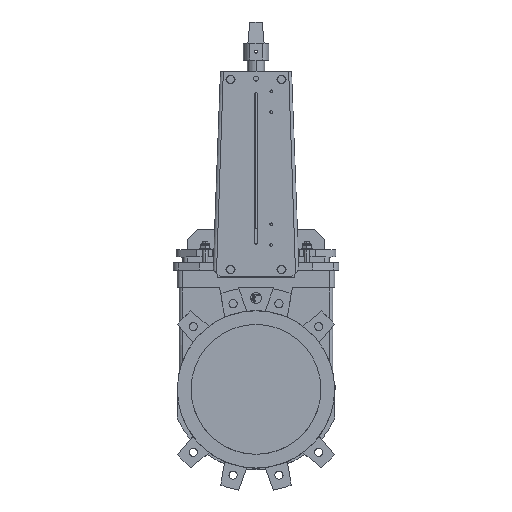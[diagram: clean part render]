
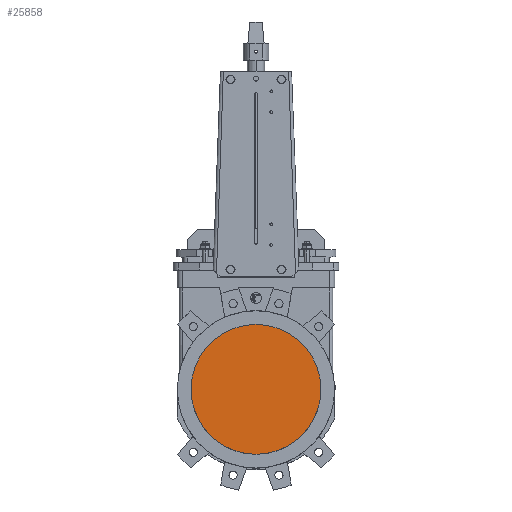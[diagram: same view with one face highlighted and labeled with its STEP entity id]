
A CAD part, top view. The second image highlights one B-rep face of the part: STEP entity #25858.
In plain terms, the highlighted planar face has unit normal (0, 0, 1).
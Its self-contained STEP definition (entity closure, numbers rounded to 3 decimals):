
#236 = VERTEX_POINT ( 'NONE', #3273 ) ;
#348 = EDGE_CURVE ( 'NONE', #22608, #236, #3452, .T. ) ;
#388 = EDGE_CURVE ( 'NONE', #236, #22712, #3462, .T. ) ;
#1056 = EDGE_CURVE ( 'NONE', #21443, #1058, #4675, .T. ) ;
#1058 = VERTEX_POINT ( 'NONE', #4671 ) ;
#3204 = VECTOR ( 'NONE', #26828, 1000. ) ;
#3273 = CARTESIAN_POINT ( 'NONE',  ( 99.034, -90.548, 5. ) ) ;
#3449 = DIRECTION ( 'NONE',  ( 0.707, 0.707, 0. ) ) ;
#3450 = VECTOR ( 'NONE', #3449, 1000. ) ;
#3451 = CARTESIAN_POINT ( 'NONE',  ( 101.291, -88.291, 5. ) ) ;
#3452 = LINE ( 'NONE', #3451, #3450 ) ;
#3461 = CARTESIAN_POINT ( 'NONE',  ( -2.257, 10.743, 5. ) ) ;
#3462 = LINE ( 'NONE', #3461, #3204 ) ;
#4671 = CARTESIAN_POINT ( 'NONE',  ( -99.034, -90.548, 5. ) ) ;
#4672 = DIRECTION ( 'NONE',  ( 0.707, 0.707, 0. ) ) ;
#4673 = VECTOR ( 'NONE', #4672, 1000. ) ;
#4674 = CARTESIAN_POINT ( 'NONE',  ( 2.257, 10.743, 5. ) ) ;
#4675 = LINE ( 'NONE', #4674, #4673 ) ;
#8452 = VERTEX_POINT ( 'NONE', #11534 ) ;
#8453 = EDGE_CURVE ( 'NONE', #8454, #8452, #11064, .T. ) ;
#8454 = VERTEX_POINT ( 'NONE', #11059 ) ;
#11059 = CARTESIAN_POINT ( 'NONE',  ( 135., 52.915, 5. ) ) ;
#11060 = DIRECTION ( 'NONE',  ( 1., 0., 0. ) ) ;
#11061 = DIRECTION ( 'NONE',  ( 0., 0., 1. ) ) ;
#11063 = AXIS2_PLACEMENT_3D ( 'NONE', #11065, #11061, #11060 ) ;
#11064 = CIRCLE ( 'NONE', #11063, 145. ) ;
#11065 = CARTESIAN_POINT ( 'NONE',  ( 0., 0., 5. ) ) ;
#11534 = CARTESIAN_POINT ( 'NONE',  ( -135., 52.915, 5. ) ) ;
#13737 = CARTESIAN_POINT ( 'NONE',  ( 0., 13., 5. ) ) ;
#14039 = AXIS2_PLACEMENT_3D ( 'NONE', #13737, #14336, #14611 ) ;
#14040 = CIRCLE ( 'NONE', #14039, 143.5 ) ;
#14336 = DIRECTION ( 'NONE',  ( 0., 0., 1. ) ) ;
#14542 = CARTESIAN_POINT ( 'NONE',  ( -95.269, -94.313, 5. ) ) ;
#14561 = CARTESIAN_POINT ( 'NONE',  ( -99.187, -90.702, 5. ) ) ;
#14576 = DIRECTION ( 'NONE',  ( 1., 0., 0. ) ) ;
#14577 = DIRECTION ( 'NONE',  ( 0., 0., 1. ) ) ;
#14578 = CARTESIAN_POINT ( 'NONE',  ( 0., 13., 5. ) ) ;
#14579 = AXIS2_PLACEMENT_3D ( 'NONE', #14578, #14577, #14576 ) ;
#14585 = CIRCLE ( 'NONE', #14579, 143.5 ) ;
#14611 = DIRECTION ( 'NONE',  ( 1., 0., 0. ) ) ;
#14656 = CARTESIAN_POINT ( 'NONE',  ( 95.269, -94.313, 5. ) ) ;
#14847 = CARTESIAN_POINT ( 'NONE',  ( 99.187, -90.702, 5. ) ) ;
#15385 = DIRECTION ( 'NONE',  ( 1., 0., 0. ) ) ;
#15386 = DIRECTION ( 'NONE',  ( 0., 0., 1. ) ) ;
#15387 = CARTESIAN_POINT ( 'NONE',  ( 0., 13., 5. ) ) ;
#15388 = AXIS2_PLACEMENT_3D ( 'NONE', #15387, #15386, #15385 ) ;
#15389 = CIRCLE ( 'NONE', #15388, 143.5 ) ;
#18606 = AXIS2_PLACEMENT_3D ( 'NONE', #19373, #19368, #19367 ) ;
#18607 = PLANE ( 'NONE',  #18606 ) ;
#18738 = CARTESIAN_POINT ( 'NONE',  ( 135., -35.654, 5. ) ) ;
#18754 = CARTESIAN_POINT ( 'NONE',  ( -135., -35.654, 5. ) ) ;
#19367 = DIRECTION ( 'NONE',  ( 1., 0., 0. ) ) ;
#19368 = DIRECTION ( 'NONE',  ( 0., 0., 1. ) ) ;
#19373 = CARTESIAN_POINT ( 'NONE',  ( -135., -198.116, 5. ) ) ;
#20381 = FACE_OUTER_BOUND ( 'NONE', #25859, .T. ) ;
#20402 = DIRECTION ( 'NONE',  ( 0., 1., 0. ) ) ;
#20403 = VECTOR ( 'NONE', #20402, 1000. ) ;
#20404 = CARTESIAN_POINT ( 'NONE',  ( 135., -198.116, 5. ) ) ;
#20405 = LINE ( 'NONE', #20404, #20403 ) ;
#20414 = DIRECTION ( 'NONE',  ( 0., 1., 0. ) ) ;
#20415 = VECTOR ( 'NONE', #20414, 1000. ) ;
#20416 = CARTESIAN_POINT ( 'NONE',  ( -135., -198.116, 5. ) ) ;
#20418 = LINE ( 'NONE', #20416, #20415 ) ;
#21443 = VERTEX_POINT ( 'NONE', #14561 ) ;
#21670 = VECTOR ( 'NONE', #21734, 1000. ) ;
#21671 = CARTESIAN_POINT ( 'NONE',  ( -101.291, -88.291, 5. ) ) ;
#21677 = LINE ( 'NONE', #21671, #21670 ) ;
#21732 = VERTEX_POINT ( 'NONE', #14542 ) ;
#21734 = DIRECTION ( 'NONE',  ( -0.707, 0.707, 0. ) ) ;
#22374 = EDGE_CURVE ( 'NONE', #21732, #22608, #14585, .T. ) ;
#22608 = VERTEX_POINT ( 'NONE', #14656 ) ;
#22712 = VERTEX_POINT ( 'NONE', #14847 ) ;
#22741 = EDGE_CURVE ( 'NONE', #22712, #24936, #14040, .T. ) ;
#23023 = EDGE_CURVE ( 'NONE', #24928, #21443, #15389, .T. ) ;
#24928 = VERTEX_POINT ( 'NONE', #18754 ) ;
#24936 = VERTEX_POINT ( 'NONE', #18738 ) ;
#25837 = ORIENTED_EDGE ( 'NONE', *, *, #25839, .T. ) ;
#25839 = EDGE_CURVE ( 'NONE', #24936, #8454, #20405, .T. ) ;
#25858 = ADVANCED_FACE ( 'NONE', ( #20381 ), #18607, .T. ) ;
#25859 = EDGE_LOOP ( 'NONE', ( #25837, #25877, #25880, #25886, #25874, #25873, #25876, #25878, #25863, #25867 ) ) ;
#25863 = ORIENTED_EDGE ( 'NONE', *, *, #388, .T. ) ;
#25867 = ORIENTED_EDGE ( 'NONE', *, *, #22741, .T. ) ;
#25873 = ORIENTED_EDGE ( 'NONE', *, *, #26575, .F. ) ;
#25874 = ORIENTED_EDGE ( 'NONE', *, *, #1056, .T. ) ;
#25876 = ORIENTED_EDGE ( 'NONE', *, *, #22374, .T. ) ;
#25877 = ORIENTED_EDGE ( 'NONE', *, *, #8453, .T. ) ;
#25878 = ORIENTED_EDGE ( 'NONE', *, *, #348, .T. ) ;
#25880 = ORIENTED_EDGE ( 'NONE', *, *, #25882, .F. ) ;
#25882 = EDGE_CURVE ( 'NONE', #24928, #8452, #20418, .T. ) ;
#25886 = ORIENTED_EDGE ( 'NONE', *, *, #23023, .T. ) ;
#26575 = EDGE_CURVE ( 'NONE', #21732, #1058, #21677, .T. ) ;
#26828 = DIRECTION ( 'NONE',  ( 0.707, -0.707, 0. ) ) ;
